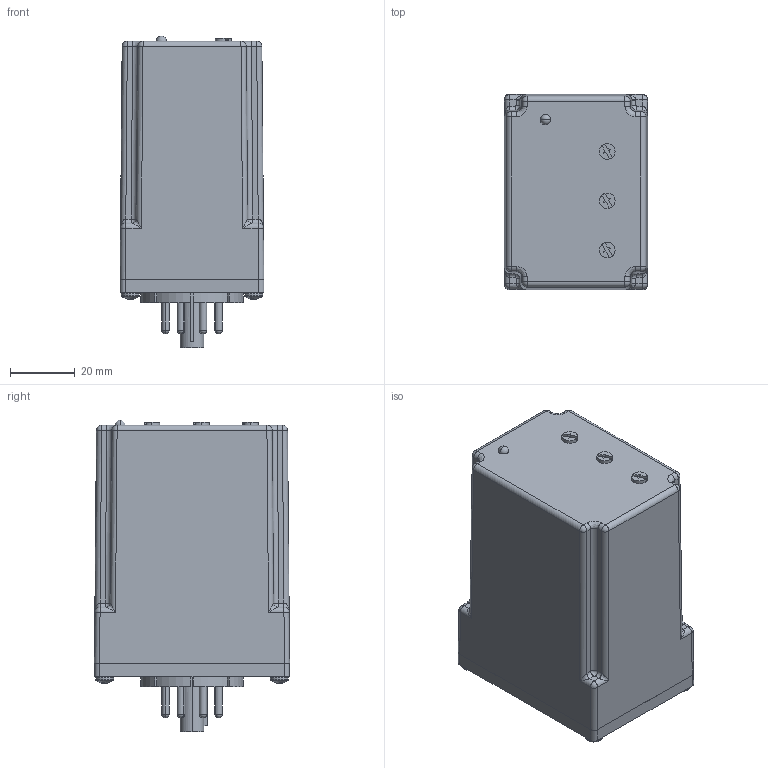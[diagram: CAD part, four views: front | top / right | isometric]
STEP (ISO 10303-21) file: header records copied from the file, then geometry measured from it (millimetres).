
FILE_DESCRIPTION (( 'STEP AP214' ), '1' );
FILE_NAME ('VHi-3Pot.STEP', '2019-05-21T01:38:49', ( '' ), ( '' ), 'SwSTEP 2.0', 'SolidWorks 2019', '' );
FILE_SCHEMA (( 'AUTOMOTIVE_DESIGN' ));
Length unit declared in the file: inch
Products named in the file (1): VHi-3Pot
Bounding box: 44.45 x 60.33 x 96.33 mm (x, y, z)
Volume: 200799.3 mm3; surface area: 29088.2 mm2
Topology: 18 solids, 18 shells, 723 faces, 1911 edges, 1219 vertices
Faces by surface type: cylinder 286, plane 253, bspline 114, cone 40, sphere 30
Entity records: 33608 total; most frequent: CARTESIAN_POINT 16718, ORIENTED_EDGE 3718, DIRECTION 2783, EDGE_CURVE 1859, VERTEX_POINT 1201, AXIS2_PLACEMENT_3D 966, LINE 851, VECTOR 851
